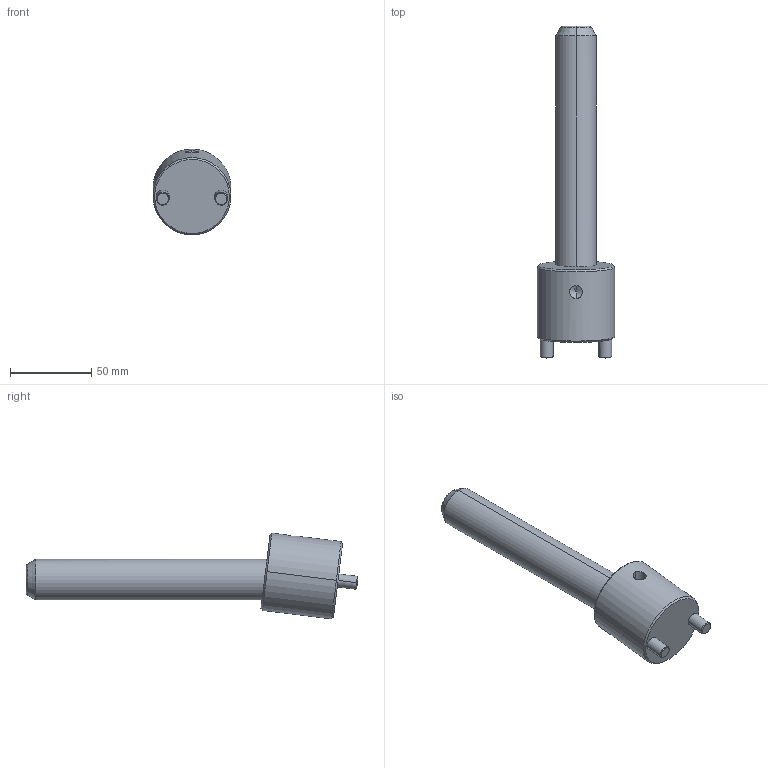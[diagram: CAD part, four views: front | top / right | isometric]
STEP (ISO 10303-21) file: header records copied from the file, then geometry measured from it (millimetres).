
FILE_DESCRIPTION(('CATIA V5 STEP Exchange'),'2;1');
FILE_NAME('C:\Users\Raffaele\Desktop\3D BOLEX\3D FILES CF BOLEX\19-INCLINED ASSEMBLY REF_CI\CI0725150.stp','2019-06-24T07:10:23+00:00',('none'),('none'),'CATIA Version 5 Release 20 GA (IN-10)','CATIA V5 STEP AP203','none');
FILE_SCHEMA(('CONFIG_CONTROL_DESIGN'));
Length unit declared in the file: millimetre
Products named in the file (1): CI0725150
Assembly tree (2 placements, depth 2):
  CI0725150
    #58
    #605
Bounding box: 48 x 204.61 x 52.88 mm (x, y, z)
Volume: 152667.7 mm3; surface area: 29405.2 mm2
Topology: 2 solids, 2 shells, 39 faces, 82 edges, 47 vertices
Faces by surface type: cone 14, cylinder 14, plane 7, torus 4
Entity records: 1530 total; most frequent: CARTESIAN_POINT 671, ORIENTED_EDGE 160, DIRECTION 145, EDGE_CURVE 80, AXIS2_PLACEMENT_3D 72, VERTEX_POINT 47, EDGE_LOOP 43, ADVANCED_FACE 39
